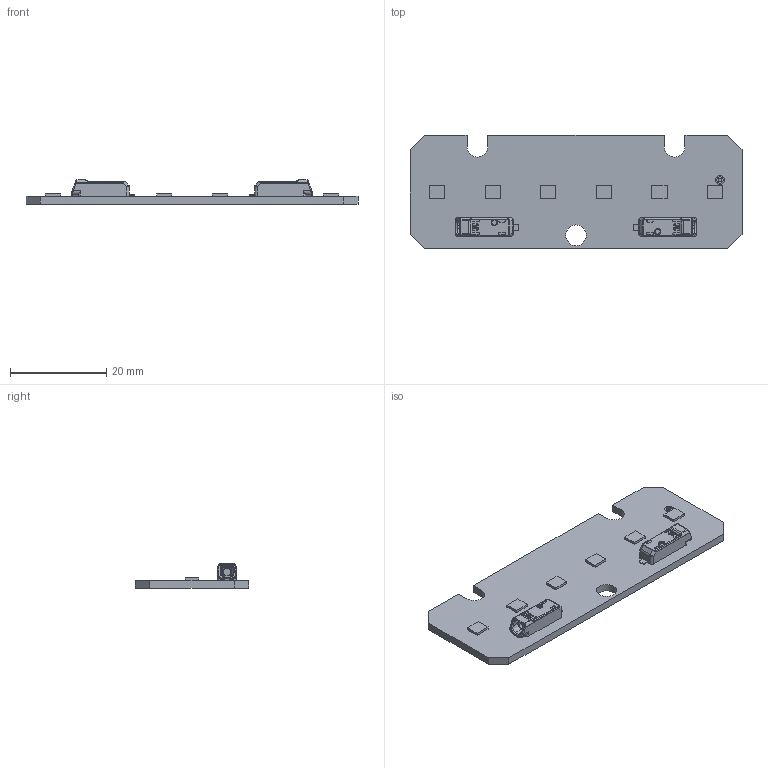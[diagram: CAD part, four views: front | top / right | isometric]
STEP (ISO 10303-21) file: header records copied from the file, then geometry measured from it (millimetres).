
FILE_DESCRIPTION((''),'2;1');
FILE_NAME('16208802_LLE-G5-24X70-325LM','2018-08-21T10:50:41',('bernhard.fink'),(''),'CREO PARAMETRIC BY PTC INC, 2017380','CREO PARAMETRIC BY PTC INC, 2017380','');
FILE_SCHEMA(('AUTOMOTIVE_DESIGN { 1 0 10303 214 1 1 1 1 }'));
Length unit declared in the file: millimetre
Products named in the file (1): 16208802_LLE-G5-24X70-325LM
Bounding box: 69 x 23.6 x 5.1 mm (x, y, z)
Volume: 2845.6 mm3; surface area: 3905.6 mm2
Topology: 1 solids, 1 shells, 541 faces, 1394 edges, 864 vertices
Faces by surface type: plane 231, cylinder 132, bspline 120, cone 34, torus 12, sphere 12
Entity records: 29052 total; most frequent: CARTESIAN_POINT 8685, ORIENTED_EDGE 2760, DIRECTION 2056, PRESENTATION_STYLE_ASSIGNMENT 1922, STYLED_ITEM 1381, CURVE_STYLE 1380, EDGE_CURVE 1380, VERTEX_POINT 862
